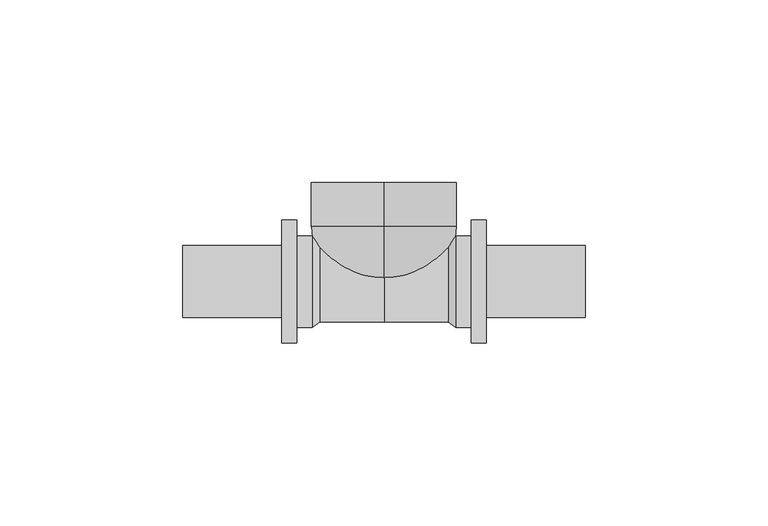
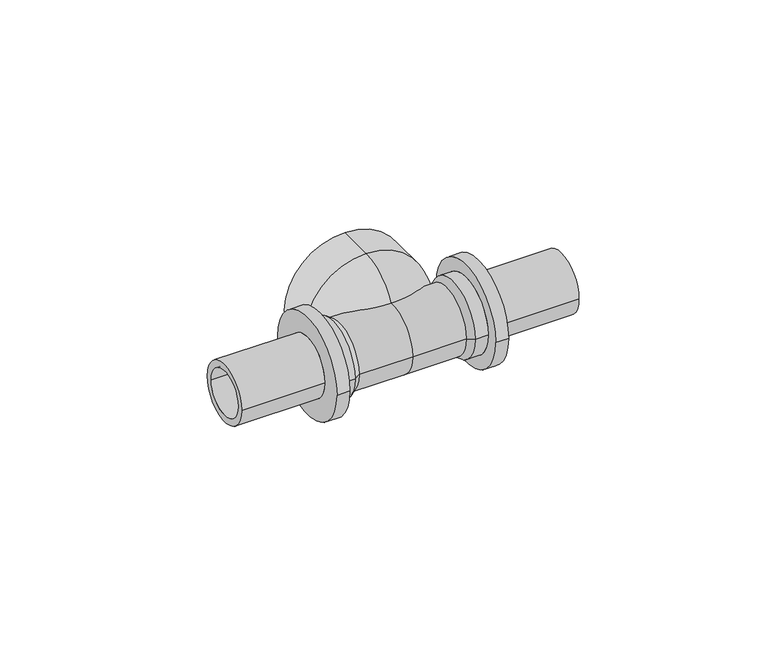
"""IFC4 building model written with IfcOpenShell, lengths in millimetres: pipe fitting geometry, REHAU_RAUTITAN_T-piece RX+, outlet with internal thread : REHAU_RAUTITAN_T-piece RX+, outlet with internal thread."""

from ifc_helpers import new_model, si_unit, point, frame, origin, place, context, project, spatial, polyline, circle_curve, ellipse_curve, trimmed, source, transform, mapped, element, save
from ifc_brep_helpers import plane_surface, cylinder_surface, revolved_surface, advanced_brep


def pipe_fitting_88b5795f(model_context):
    return source(origin(), model_context, "Body", "AdvancedBrep", [
        advanced_brep(
        [(-28.0, 9.875, 0.0), (-28.0, -9.875, 0.0), (-55.0, -9.875, 0.0), (-55.0, 9.875, 0.0), (-23.8, 16.8, 0.0), (-23.8, -16.8, 0.0), (-28.0, -16.8, 0.0), (-28.0, 16.8, 0.0), (-19.6, 12.5, 0.0), (-19.6, -12.5, 0.0), (-23.8, -12.5, 0.0), (-23.8, 12.5, 0.0), (-17.5, 11.055, 0.0), (-17.5, -11.055, 0.0), (0.0, 11.055, 0.0), (0.0, -11.055, 0.0), (-17.5, 8.195, 0.0), (-17.5, -8.195, 0.0), (0.0, -8.195, 0.0), (0.0, 8.195, 0.0), (-19.6, 7.6, 0.0), (-19.6, -7.6, 0.0), (-55.0, 7.6, 0.0), (-55.0, -7.6, 0.0)],
        [
            (0, 1, circle_curve(frame((-28.0, 0.0, 0.0), z_axis=(-1.0, 0.0, 0.0), x_axis=(0.0, -1.0, 0.0)), 9.875)),
            (1, 2),
            (2, 3, circle_curve(frame((-55.0, 0.0, 0.0), z_axis=(1.0, 0.0, 0.0), x_axis=(0.0, -1.0, 0.0)), 9.875)),
            (3, 0),
            (4, 5, circle_curve(frame((-23.8, 0.0, 0.0), z_axis=(-1.0, 0.0, 0.0), x_axis=(0.0, -1.0, 0.0)), 16.8)),
            (5, 6),
            (6, 7, circle_curve(frame((-28.0, 0.0, 0.0), z_axis=(1.0, 0.0, 0.0), x_axis=(0.0, -1.0, 0.0)), 16.8)),
            (7, 4),
            (8, 9, circle_curve(frame((-19.6, 0.0, 0.0), z_axis=(-1.0, 0.0, 0.0), x_axis=(0.0, -1.0, 0.0)), 12.5)),
            (9, 10),
            (10, 11, circle_curve(frame((-23.8, 0.0, 0.0), z_axis=(1.0, 0.0, 0.0), x_axis=(0.0, -1.0, 0.0)), 12.5)),
            (11, 8),
            (12, 13, circle_curve(frame((-17.5, 0.0, 0.0), z_axis=(-1.0, 0.0, 0.0), x_axis=(0.0, -1.0, 0.0)), 11.055)),
            (13, 9),
            (8, 12),
            (14, 15, circle_curve(frame((0.0, 0.0, 0.0), z_axis=(-1.0, 0.0, 0.0), x_axis=(0.0, -1.0, 0.0)), 11.055)),
            (15, 13),
            (12, 14),
            (16, 17, circle_curve(frame((-17.5, 0.0, 0.0), z_axis=(-1.0, 0.0, 0.0), x_axis=(0.0, -1.0, 0.0)), 8.195)),
            (17, 18),
            (18, 19, circle_curve(frame((0.0, 0.0, 0.0), z_axis=(1.0, 0.0, 0.0), x_axis=(0.0, -1.0, 0.0)), 8.195)),
            (19, 16),
            (20, 21, circle_curve(frame((-19.6, 0.0, 0.0), z_axis=(-1.0, 0.0, 0.0), x_axis=(0.0, -1.0, 0.0)), 7.6)),
            (21, 17),
            (16, 20),
            (22, 23, circle_curve(frame((-55.0, 0.0, 0.0), z_axis=(-1.0, 0.0, 0.0), x_axis=(0.0, -1.0, 0.0)), 7.6)),
            (23, 21),
            (20, 22),
            (1, 0, circle_curve(frame((-28.0, 0.0, 0.0), z_axis=(-1.0, 0.0, 0.0), x_axis=(0.0, 1.0, 0.0)), 9.875)),
            (3, 2, circle_curve(frame((-55.0, 0.0, 0.0), z_axis=(1.0, 0.0, 0.0), x_axis=(0.0, 1.0, 0.0)), 9.875)),
            (6, 7, circle_curve(frame((-28.0, 0.0, 0.0), z_axis=(-1.0, 0.0, 0.0), x_axis=(0.0, 1.0, 0.0)), 16.8)),
            (5, 4, circle_curve(frame((-23.8, 0.0, 0.0), z_axis=(-1.0, 0.0, 0.0), x_axis=(0.0, 1.0, 0.0)), 16.8)),
            (10, 11, circle_curve(frame((-23.8, 0.0, 0.0), z_axis=(-1.0, 0.0, 0.0), x_axis=(0.0, 1.0, 0.0)), 12.5)),
            (9, 8, circle_curve(frame((-19.6, 0.0, 0.0), z_axis=(-1.0, 0.0, 0.0), x_axis=(0.0, 1.0, 0.0)), 12.5)),
            (13, 12, circle_curve(frame((-17.5, 0.0, 0.0), z_axis=(-1.0, 0.0, 0.0), x_axis=(0.0, 1.0, 0.0)), 11.055)),
            (15, 14, circle_curve(frame((0.0, 0.0, 0.0), z_axis=(-1.0, 0.0, 0.0), x_axis=(0.0, 1.0, 0.0)), 11.055)),
            (18, 19, circle_curve(frame((0.0, 0.0, 0.0), z_axis=(-1.0, 0.0, 0.0), x_axis=(0.0, 1.0, 0.0)), 8.195)),
            (17, 16, circle_curve(frame((-17.5, 0.0, 0.0), z_axis=(-1.0, 0.0, 0.0), x_axis=(0.0, 1.0, 0.0)), 8.195)),
            (21, 20, circle_curve(frame((-19.6, 0.0, 0.0), z_axis=(-1.0, 0.0, 0.0), x_axis=(0.0, 1.0, 0.0)), 7.6)),
            (23, 22, circle_curve(frame((-55.0, 0.0, 0.0), z_axis=(-1.0, 0.0, 0.0), x_axis=(0.0, 1.0, 0.0)), 7.6)),
        ],
        [
            cylinder_surface(frame((0.0, 0.0, 0.0), z_axis=(1.0, 0.0, 0.0), x_axis=(0.0, -1.0, 0.0)), 9.875),
            cylinder_surface(frame((0.0, 0.0, 0.0), z_axis=(1.0, 0.0, 0.0), x_axis=(0.0, -1.0, 0.0)), 16.8),
            cylinder_surface(frame((0.0, 0.0, 0.0), z_axis=(1.0, 0.0, 0.0), x_axis=(0.0, -1.0, 0.0)), 12.5),
            revolved_surface(polyline([(-19.6, -12.5, 0.0), (-17.5, -11.055, 0.0)]), (0.0, 0.0, 0.0), (1.0, 0.0, 0.0)),
            cylinder_surface(frame((0.0, 0.0, 0.0), z_axis=(1.0, 0.0, 0.0), x_axis=(0.0, -1.0, 0.0)), 11.055),
            revolved_surface(polyline([(0.0, -8.195, 0.0), (-17.5, -8.195, 0.0)]), (0.0, 0.0, 0.0), (1.0, 0.0, 0.0)),
            revolved_surface(polyline([(-17.5, -8.195, 0.0), (-19.6, -7.6, 0.0)]), (0.0, 0.0, 0.0), (1.0, 0.0, 0.0)),
            revolved_surface(polyline([(-19.6, -7.6, 0.0), (-55.0, -7.6, 0.0)]), (0.0, 0.0, 0.0), (1.0, 0.0, 0.0)),
            cylinder_surface(frame((0.0, 0.0, 0.0), z_axis=(1.0, 0.0, 0.0), x_axis=(0.0, 1.0, 0.0)), 9.875),
            plane_surface(frame((-28.0, 0.0, 0.0), z_axis=(-1.0, 0.0, 0.0), x_axis=(0.0, 1.0, 0.0))),
            cylinder_surface(frame((0.0, 0.0, 0.0), z_axis=(1.0, 0.0, 0.0), x_axis=(0.0, 1.0, 0.0)), 16.8),
            plane_surface(frame((-23.8, 0.0, 0.0), z_axis=(1.0, 0.0, 0.0), x_axis=(0.0, 1.0, 0.0))),
            cylinder_surface(frame((0.0, 0.0, 0.0), z_axis=(1.0, 0.0, 0.0), x_axis=(0.0, 1.0, 0.0)), 12.5),
            revolved_surface(polyline([(-19.6, 12.5, 0.0), (-17.5, 11.055, 0.0)]), (0.0, 0.0, 0.0), (1.0, 0.0, 0.0)),
            cylinder_surface(frame((0.0, 0.0, 0.0), z_axis=(1.0, 0.0, 0.0), x_axis=(0.0, 1.0, 0.0)), 11.055),
            plane_surface(frame((0.0, 0.0, 0.0), z_axis=(1.0, 0.0, 0.0), x_axis=(0.0, 1.0, 0.0))),
            revolved_surface(polyline([(0.0, 8.195, 0.0), (-17.5, 8.195, 0.0)]), (0.0, 0.0, 0.0), (1.0, 0.0, 0.0)),
            revolved_surface(polyline([(-17.5, 8.195, 0.0), (-19.6, 7.6, 0.0)]), (0.0, 0.0, 0.0), (1.0, 0.0, 0.0)),
            revolved_surface(polyline([(-19.6, 7.6, 0.0), (-55.0, 7.6, 0.0)]), (0.0, 0.0, 0.0), (1.0, 0.0, 0.0)),
            plane_surface(frame((-55.0, 0.0, 0.0), z_axis=(-1.0, 0.0, 0.0), x_axis=(0.0, 1.0, 0.0))),
        ],
        [
            (0, [[1, 2, 3, 4]]),
            (1, [[5, 6, 7, 8]]),
            (2, [[9, 10, 11, 12]]),
            (3, [[13, 14, -9, 15]]),
            (4, [[16, 17, -13, 18]]),
            (5, [[19, 20, 21, 22]]),
            (6, [[23, 24, -19, 25]]),
            (7, [[26, 27, -23, 28]]),
            (8, [[29, -4, 30, -2]]),
            (9, [[31, -7], [-29, -1]]),
            (10, [[32, -8, -31, -6]]),
            (11, [[-32, -5], [33, -11]]),
            (12, [[34, -12, -33, -10]]),
            (13, [[35, -15, -34, -14]]),
            (14, [[36, -18, -35, -17]]),
            (15, [[-36, -16], [37, -21]]),
            (16, [[38, -22, -37, -20]]),
            (17, [[39, -25, -38, -24]]),
            (18, [[40, -28, -39, -27]]),
            (19, [[-30, -3], [-40, -26]]),
        ],
    ),
        advanced_brep(
        [(19.6, 7.6, 0.0), (19.6, -7.6, 0.0), (55.0, -7.6, 0.0), (55.0, 7.6, 0.0), (17.5, 8.195, 0.0), (17.5, -8.195, 0.0), (0.0, 8.195, 0.0), (0.0, -8.195, 0.0), (17.5, 11.055, 0.0), (17.5, -11.055, 0.0), (0.0, -11.055, 0.0), (0.0, 11.055, 0.0), (19.6, 12.5, 0.0), (19.6, -12.5, 0.0), (23.8, 12.5, 0.0), (23.8, -12.5, 0.0), (28.0, 16.8, 0.0), (28.0, -16.8, 0.0), (23.8, -16.8, 0.0), (23.8, 16.8, 0.0), (55.0, 9.875, 0.0), (55.0, -9.875, 0.0), (28.0, -9.875, 0.0), (28.0, 9.875, 0.0)],
        [
            (0, 1, circle_curve(frame((19.6, 0.0, 0.0), z_axis=(-1.0, 0.0, 0.0), x_axis=(0.0, -1.0, 0.0)), 7.6)),
            (1, 2),
            (2, 3, circle_curve(frame((55.0, 0.0, 0.0), z_axis=(1.0, 0.0, 0.0), x_axis=(0.0, -1.0, 0.0)), 7.6)),
            (3, 0),
            (4, 5, circle_curve(frame((17.5, 0.0, 0.0), z_axis=(-1.0, 0.0, 0.0), x_axis=(0.0, -1.0, 0.0)), 8.195)),
            (5, 1),
            (0, 4),
            (6, 7, circle_curve(frame((0.0, 0.0, 0.0), z_axis=(-1.0, 0.0, 0.0), x_axis=(0.0, -1.0, 0.0)), 8.195)),
            (7, 5),
            (4, 6),
            (8, 9, circle_curve(frame((17.5, 0.0, 0.0), z_axis=(-1.0, 0.0, 0.0), x_axis=(0.0, -1.0, 0.0)), 11.055)),
            (9, 10),
            (10, 11, circle_curve(frame((0.0, 0.0, 0.0), z_axis=(1.0, 0.0, 0.0), x_axis=(0.0, -1.0, 0.0)), 11.055)),
            (11, 8),
            (12, 13, circle_curve(frame((19.6, 0.0, 0.0), z_axis=(-1.0, 0.0, 0.0), x_axis=(0.0, -1.0, 0.0)), 12.5)),
            (13, 9),
            (8, 12),
            (14, 15, circle_curve(frame((23.8, 0.0, 0.0), z_axis=(-1.0, 0.0, 0.0), x_axis=(0.0, -1.0, 0.0)), 12.5)),
            (15, 13),
            (12, 14),
            (16, 17, circle_curve(frame((28.0, 0.0, 0.0), z_axis=(-1.0, 0.0, 0.0), x_axis=(0.0, -1.0, 0.0)), 16.8)),
            (17, 18),
            (18, 19, circle_curve(frame((23.8, 0.0, 0.0), z_axis=(1.0, 0.0, 0.0), x_axis=(0.0, -1.0, 0.0)), 16.8)),
            (19, 16),
            (20, 21, circle_curve(frame((55.0, 0.0, 0.0), z_axis=(-1.0, 0.0, 0.0), x_axis=(0.0, -1.0, 0.0)), 9.875)),
            (21, 22),
            (22, 23, circle_curve(frame((28.0, 0.0, 0.0), z_axis=(1.0, 0.0, 0.0), x_axis=(0.0, -1.0, 0.0)), 9.875)),
            (23, 20),
            (20, 21, circle_curve(frame((55.0, 0.0, 0.0), z_axis=(1.0, 0.0, 0.0), x_axis=(0.0, 1.0, 0.0)), 9.875)),
            (2, 3, circle_curve(frame((55.0, 0.0, 0.0), z_axis=(-1.0, 0.0, 0.0), x_axis=(0.0, 1.0, 0.0)), 7.6)),
            (1, 0, circle_curve(frame((19.6, 0.0, 0.0), z_axis=(-1.0, 0.0, 0.0), x_axis=(0.0, 1.0, 0.0)), 7.6)),
            (5, 4, circle_curve(frame((17.5, 0.0, 0.0), z_axis=(-1.0, 0.0, 0.0), x_axis=(0.0, 1.0, 0.0)), 8.195)),
            (7, 6, circle_curve(frame((0.0, 0.0, 0.0), z_axis=(-1.0, 0.0, 0.0), x_axis=(0.0, 1.0, 0.0)), 8.195)),
            (10, 11, circle_curve(frame((0.0, 0.0, 0.0), z_axis=(-1.0, 0.0, 0.0), x_axis=(0.0, 1.0, 0.0)), 11.055)),
            (9, 8, circle_curve(frame((17.5, 0.0, 0.0), z_axis=(-1.0, 0.0, 0.0), x_axis=(0.0, 1.0, 0.0)), 11.055)),
            (13, 12, circle_curve(frame((19.6, 0.0, 0.0), z_axis=(-1.0, 0.0, 0.0), x_axis=(0.0, 1.0, 0.0)), 12.5)),
            (15, 14, circle_curve(frame((23.8, 0.0, 0.0), z_axis=(-1.0, 0.0, 0.0), x_axis=(0.0, 1.0, 0.0)), 12.5)),
            (18, 19, circle_curve(frame((23.8, 0.0, 0.0), z_axis=(-1.0, 0.0, 0.0), x_axis=(0.0, 1.0, 0.0)), 16.8)),
            (17, 16, circle_curve(frame((28.0, 0.0, 0.0), z_axis=(-1.0, 0.0, 0.0), x_axis=(0.0, 1.0, 0.0)), 16.8)),
            (22, 23, circle_curve(frame((28.0, 0.0, 0.0), z_axis=(-1.0, 0.0, 0.0), x_axis=(0.0, 1.0, 0.0)), 9.875)),
        ],
        [
            revolved_surface(polyline([(55.0, -7.6, 0.0), (19.6, -7.6, 0.0)]), (0.0, 0.0, 0.0), (1.0, 0.0, 0.0)),
            revolved_surface(polyline([(19.6, -7.6, 0.0), (17.5, -8.195, 0.0)]), (0.0, 0.0, 0.0), (1.0, 0.0, 0.0)),
            revolved_surface(polyline([(17.5, -8.195, 0.0), (0.0, -8.195, 0.0)]), (0.0, 0.0, 0.0), (1.0, 0.0, 0.0)),
            cylinder_surface(frame((0.0, 0.0, 0.0), z_axis=(1.0, 0.0, 0.0), x_axis=(0.0, -1.0, 0.0)), 11.055),
            revolved_surface(polyline([(17.5, -11.055, 0.0), (19.6, -12.5, 0.0)]), (0.0, 0.0, 0.0), (1.0, 0.0, 0.0)),
            cylinder_surface(frame((0.0, 0.0, 0.0), z_axis=(1.0, 0.0, 0.0), x_axis=(0.0, -1.0, 0.0)), 12.5),
            cylinder_surface(frame((0.0, 0.0, 0.0), z_axis=(1.0, 0.0, 0.0), x_axis=(0.0, -1.0, 0.0)), 16.8),
            cylinder_surface(frame((0.0, 0.0, 0.0), z_axis=(1.0, 0.0, 0.0), x_axis=(0.0, -1.0, 0.0)), 9.875),
            plane_surface(frame((55.0, 0.0, 0.0), z_axis=(1.0, 0.0, 0.0), x_axis=(0.0, 1.0, 0.0))),
            revolved_surface(polyline([(55.0, 7.6, 0.0), (19.6, 7.6, 0.0)]), (0.0, 0.0, 0.0), (1.0, 0.0, 0.0)),
            revolved_surface(polyline([(19.6, 7.6, 0.0), (17.5, 8.195, 0.0)]), (0.0, 0.0, 0.0), (1.0, 0.0, 0.0)),
            revolved_surface(polyline([(17.5, 8.195, 0.0), (0.0, 8.195, 0.0)]), (0.0, 0.0, 0.0), (1.0, 0.0, 0.0)),
            plane_surface(frame((0.0, 0.0, 0.0), z_axis=(-1.0, 0.0, 0.0), x_axis=(0.0, 1.0, 0.0))),
            cylinder_surface(frame((0.0, 0.0, 0.0), z_axis=(1.0, 0.0, 0.0), x_axis=(0.0, 1.0, 0.0)), 11.055),
            revolved_surface(polyline([(17.5, 11.055, 0.0), (19.6, 12.5, 0.0)]), (0.0, 0.0, 0.0), (1.0, 0.0, 0.0)),
            cylinder_surface(frame((0.0, 0.0, 0.0), z_axis=(1.0, 0.0, 0.0), x_axis=(0.0, 1.0, 0.0)), 12.5),
            plane_surface(frame((23.8, 0.0, 0.0), z_axis=(-1.0, 0.0, 0.0), x_axis=(0.0, 1.0, 0.0))),
            cylinder_surface(frame((0.0, 0.0, 0.0), z_axis=(1.0, 0.0, 0.0), x_axis=(0.0, 1.0, 0.0)), 16.8),
            plane_surface(frame((28.0, 0.0, 0.0), z_axis=(1.0, 0.0, 0.0), x_axis=(0.0, 1.0, 0.0))),
            cylinder_surface(frame((0.0, 0.0, 0.0), z_axis=(1.0, 0.0, 0.0), x_axis=(0.0, 1.0, 0.0)), 9.875),
        ],
        [
            (0, [[1, 2, 3, 4]]),
            (1, [[5, 6, -1, 7]]),
            (2, [[8, 9, -5, 10]]),
            (3, [[11, 12, 13, 14]]),
            (4, [[15, 16, -11, 17]]),
            (5, [[18, 19, -15, 20]]),
            (6, [[21, 22, 23, 24]]),
            (7, [[25, 26, 27, 28]]),
            (8, [[29, -25], [30, -3]]),
            (9, [[31, -4, -30, -2]]),
            (10, [[32, -7, -31, -6]]),
            (11, [[33, -10, -32, -9]]),
            (12, [[34, -13], [-33, -8]]),
            (13, [[35, -14, -34, -12]]),
            (14, [[36, -17, -35, -16]]),
            (15, [[37, -20, -36, -19]]),
            (16, [[38, -23], [-37, -18]]),
            (17, [[39, -24, -38, -22]]),
            (18, [[-39, -21], [40, -27]]),
            (19, [[-29, -28, -40, -26]]),
        ],
    ),
        advanced_brep(
        [(0.0, -0.9422002, 4.32), (0.0, -0.9422002, -4.32), (0.0, 15.08, -19.85), (0.0, 15.08, 19.85), (0.0, 2.8802418, 4.32), (0.0, 2.8802418, -4.32), (0.0, 15.08, 16.03), (0.0, 15.08, -16.03), (0.0, 27.06, 16.03), (0.0, 27.06, -16.03), (0.0, 27.06, -19.85), (0.0, 27.06, 19.85)],
        [
            (0, 1, circle_curve(frame((0.0, -0.9422002, 0.0), z_axis=(0.0, 1.0, 0.0), x_axis=(0.0, 0.0, -1.0)), 4.32)),
            (1, 2, circle_curve(frame((0.0, 15.08, -3.82), z_axis=(1.0, 0.0, 0.0), x_axis=(0.0, 1.0, 0.0)), 16.03)),
            (2, 3, circle_curve(frame((0.0, 15.08, 0.0), z_axis=(0.0, -1.0, 0.0), x_axis=(0.0, 0.0, -1.0)), 19.85)),
            (3, 0, circle_curve(frame((0.0, 15.08, 3.82), z_axis=(1.0, 0.0, 0.0), x_axis=(0.0, 1.0, 0.0)), 16.03)),
            (4, 5, circle_curve(frame((0.0, 2.8802418, 0.0), z_axis=(0.0, 1.0, 0.0), x_axis=(0.0, 0.0, -1.0)), 4.32)),
            (5, 1),
            (0, 4),
            (6, 7, circle_curve(frame((0.0, 15.08, 0.0), z_axis=(0.0, 1.0, 0.0), x_axis=(0.0, 0.0, -1.0)), 16.03)),
            (7, 5, circle_curve(frame((0.0, 15.08, -3.82), z_axis=(-1.0, 0.0, 0.0), x_axis=(0.0, 1.0, 0.0)), 12.21)),
            (4, 6, circle_curve(frame((0.0, 15.08, 3.82), z_axis=(-1.0, 0.0, 0.0), x_axis=(0.0, 1.0, 0.0)), 12.21)),
            (8, 9, circle_curve(frame((0.0, 27.06, 0.0), z_axis=(0.0, 1.0, 0.0), x_axis=(0.0, 0.0, -1.0)), 16.03)),
            (9, 7),
            (6, 8),
            (2, 10),
            (10, 11, circle_curve(frame((0.0, 27.06, 0.0), z_axis=(0.0, -1.0, 0.0), x_axis=(0.0, 0.0, -1.0)), 19.85)),
            (11, 3),
            (1, 0, circle_curve(frame((0.0, -0.9422002, 0.0), z_axis=(0.0, 1.0, 0.0), x_axis=(0.0, 0.0, 1.0)), 4.32)),
            (3, 2, circle_curve(frame((0.0, 15.08, 0.0), z_axis=(0.0, -1.0, 0.0), x_axis=(0.0, 0.0, 1.0)), 19.85)),
            (5, 4, circle_curve(frame((0.0, 2.8802418, 0.0), z_axis=(0.0, 1.0, 0.0), x_axis=(0.0, 0.0, 1.0)), 4.32)),
            (7, 6, circle_curve(frame((0.0, 15.08, 0.0), z_axis=(0.0, 1.0, 0.0), x_axis=(0.0, 0.0, 1.0)), 16.03)),
            (9, 8, circle_curve(frame((0.0, 27.06, 0.0), z_axis=(0.0, 1.0, 0.0), x_axis=(0.0, 0.0, 1.0)), 16.03)),
            (10, 11, circle_curve(frame((0.0, 27.06, 0.0), z_axis=(0.0, 1.0, 0.0), x_axis=(0.0, 0.0, 1.0)), 19.85)),
        ],
        [
            revolved_surface(trimmed(ellipse_curve(frame((0.0, 15.08, -3.82), z_axis=(-1.0, 0.0, 0.0), x_axis=(0.0, 1.0, 0.0)), 16.03, 16.03), [point((0.0, 15.08, -19.85))], [point((0.0, -0.9422002, -4.32))], True, "CARTESIAN"), (0.0, 0.0, 0.0), (0.0, -1.0, 0.0)),
            revolved_surface(polyline([(0.0, -0.9422002, -4.32), (0.0, 2.8802418, -4.32)]), (0.0, 0.0, 0.0), (0.0, -1.0, 0.0)),
            revolved_surface(trimmed(ellipse_curve(frame((0.0, 15.08, -3.82), z_axis=(1.0, 0.0, 0.0), x_axis=(0.0, 1.0, 0.0)), 12.21, 12.21), [point((0.0, 2.8802418, -4.32))], [point((0.0, 15.08, -16.03))], True, "CARTESIAN"), (0.0, 0.0, 0.0), (0.0, -1.0, 0.0)),
            revolved_surface(polyline([(0.0, 15.08, -16.03), (0.0, 27.06, -16.03)]), (0.0, 0.0, 0.0), (0.0, -1.0, 0.0)),
            cylinder_surface(frame((0.0, 0.0, 0.0), z_axis=(0.0, -1.0, 0.0), x_axis=(0.0, 0.0, -1.0)), 19.85),
            revolved_surface(trimmed(ellipse_curve(frame((0.0, 15.08, 3.82), z_axis=(1.0, 0.0, 0.0), x_axis=(0.0, 1.0, 0.0)), 16.03, 16.03), [point((0.0, 15.08, 19.85))], [point((0.0, -0.9422002, 4.32))], True, "CARTESIAN"), (0.0, 0.0, 0.0), (0.0, -1.0, 0.0)),
            revolved_surface(polyline([(0.0, -0.9422002, 4.32), (0.0, 2.8802418, 4.32)]), (0.0, 0.0, 0.0), (0.0, -1.0, 0.0)),
            revolved_surface(trimmed(ellipse_curve(frame((0.0, 15.08, 3.82), z_axis=(-1.0, 0.0, 0.0), x_axis=(0.0, 1.0, 0.0)), 12.21, 12.21), [point((0.0, 2.8802418, 4.32))], [point((0.0, 15.08, 16.03))], True, "CARTESIAN"), (0.0, 0.0, 0.0), (0.0, -1.0, 0.0)),
            revolved_surface(polyline([(0.0, 15.08, 16.03), (0.0, 27.06, 16.03)]), (0.0, 0.0, 0.0), (0.0, -1.0, 0.0)),
            plane_surface(frame((0.0, 27.06, 0.0), z_axis=(0.0, 1.0, 0.0), x_axis=(0.0, 0.0, 1.0))),
            cylinder_surface(frame((0.0, 0.0, 0.0), z_axis=(0.0, -1.0, 0.0), x_axis=(0.0, 0.0, 1.0)), 19.85),
        ],
        [
            (0, [[1, 2, 3, 4]]),
            (1, [[5, 6, -1, 7]]),
            (2, [[8, 9, -5, 10]]),
            (3, [[11, 12, -8, 13]]),
            (4, [[-3, 14, 15, 16]]),
            (5, [[17, -4, 18, -2]]),
            (6, [[19, -7, -17, -6]]),
            (7, [[20, -10, -19, -9]]),
            (8, [[21, -13, -20, -12]]),
            (9, [[22, -15], [-21, -11]]),
            (10, [[-18, -16, -22, -14]]),
        ],
    ),
    ])


if __name__ == "__main__":
    model = new_model("IFC4")
    model_context = context("Model", 3, world=origin())
    ifc_project = project(units=[si_unit("LENGTHUNIT", "METRE", prefix="MILLI")], contexts=[model_context])
    site = spatial("IfcSite", under=ifc_project)
    building = spatial("IfcBuilding", under=site)
    placement = place(None, origin())
    pipe_fitting_shape = pipe_fitting_88b5795f(model_context)
    element("IfcPipeFitting", 1, ObjectType="REHAU_RAUTITAN_T-piece RX+, outlet with internal thread : REHAU_RAUTITAN_T-piece RX+, outlet with internal thread", at=placement, inside=building, context=model_context, shape_type="MappedRepresentation", body=[
        mapped(pipe_fitting_shape, transform((0.0, 0.0, 0.0), x_axis=(1.0, 0.0, 0.0), y_axis=(0.0, 1.0, 0.0), z_axis=(0.0, 0.0, 1.0))),
    ])
    save(model, "model.ifc")
